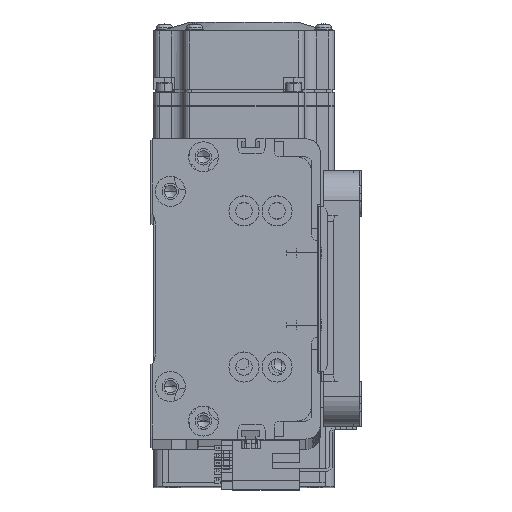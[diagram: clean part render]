
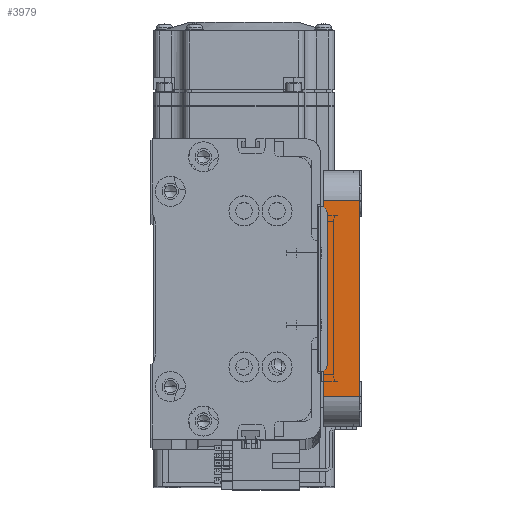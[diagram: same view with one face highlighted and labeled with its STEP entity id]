
A CAD part, top view. The second image highlights one B-rep face of the part: STEP entity #3979.
In plain terms, the highlighted planar face has unit normal (0, 0, 1) as drawn and (-1, 0, 0) by its records, which use the part's own axes.
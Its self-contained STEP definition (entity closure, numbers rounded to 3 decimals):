
#2050 = VERTEX_POINT ( 'NONE', #42360 ) ;
#3045 = VECTOR ( 'NONE', #41717, 1000. ) ;
#3367 = CARTESIAN_POINT ( 'NONE',  ( -55., 32.5, 12. ) ) ;
#3653 = CARTESIAN_POINT ( 'NONE',  ( -55., -32.5, 12. ) ) ;
#3979 = ADVANCED_FACE ( 'NONE', ( #7432 ), #46183, .F. ) ;
#5760 = DIRECTION ( 'NONE',  ( 0., -1., 0. ) ) ;
#6026 = EDGE_LOOP ( 'NONE', ( #26916, #60378, #52014, #73509 ) ) ;
#7432 = FACE_OUTER_BOUND ( 'NONE', #6026, .T. ) ;
#12043 = VECTOR ( 'NONE', #5760, 1000. ) ;
#12631 = CARTESIAN_POINT ( 'NONE',  ( -55., -32.5, 0. ) ) ;
#16262 = CARTESIAN_POINT ( 'NONE',  ( -55., -42.5, 12. ) ) ;
#20463 = LINE ( 'NONE', #3367, #66479 ) ;
#22104 = EDGE_CURVE ( 'NONE', #36780, #35634, #43934, .T. ) ;
#22534 = DIRECTION ( 'NONE',  ( 0., 0., -1. ) ) ;
#26916 = ORIENTED_EDGE ( 'NONE', *, *, #22104, .T. ) ;
#34626 = VERTEX_POINT ( 'NONE', #34655 ) ;
#34655 = CARTESIAN_POINT ( 'NONE',  ( -55., -32.5, 12. ) ) ;
#34995 = LINE ( 'NONE', #71901, #3045 ) ;
#35634 = VERTEX_POINT ( 'NONE', #12631 ) ;
#36780 = VERTEX_POINT ( 'NONE', #73326 ) ;
#41700 = CARTESIAN_POINT ( 'NONE',  ( -55., -42.5, 0. ) ) ;
#41717 = DIRECTION ( 'NONE',  ( 0., -1., 0. ) ) ;
#42360 = CARTESIAN_POINT ( 'NONE',  ( -55., 32.5, 12. ) ) ;
#43242 = EDGE_CURVE ( 'NONE', #35634, #34626, #44562, .T. ) ;
#43934 = LINE ( 'NONE', #41700, #12043 ) ;
#44562 = LINE ( 'NONE', #3653, #70868 ) ;
#44950 = EDGE_CURVE ( 'NONE', #2050, #36780, #20463, .T. ) ;
#46183 = PLANE ( 'NONE',  #71059 ) ;
#51348 = DIRECTION ( 'NONE',  ( 0., 0., -1. ) ) ;
#51360 = DIRECTION ( 'NONE',  ( 0., 0., 1. ) ) ;
#52014 = ORIENTED_EDGE ( 'NONE', *, *, #55705, .F. ) ;
#55705 = EDGE_CURVE ( 'NONE', #2050, #34626, #34995, .T. ) ;
#58482 = DIRECTION ( 'NONE',  ( 1., 0., 0. ) ) ;
#60378 = ORIENTED_EDGE ( 'NONE', *, *, #43242, .T. ) ;
#66479 = VECTOR ( 'NONE', #51348, 1000. ) ;
#70868 = VECTOR ( 'NONE', #51360, 1000. ) ;
#71059 = AXIS2_PLACEMENT_3D ( 'NONE', #16262, #58482, #22534 ) ;
#71901 = CARTESIAN_POINT ( 'NONE',  ( -55., -42.5, 12. ) ) ;
#73326 = CARTESIAN_POINT ( 'NONE',  ( -55., 32.5, 0. ) ) ;
#73509 = ORIENTED_EDGE ( 'NONE', *, *, #44950, .T. ) ;
